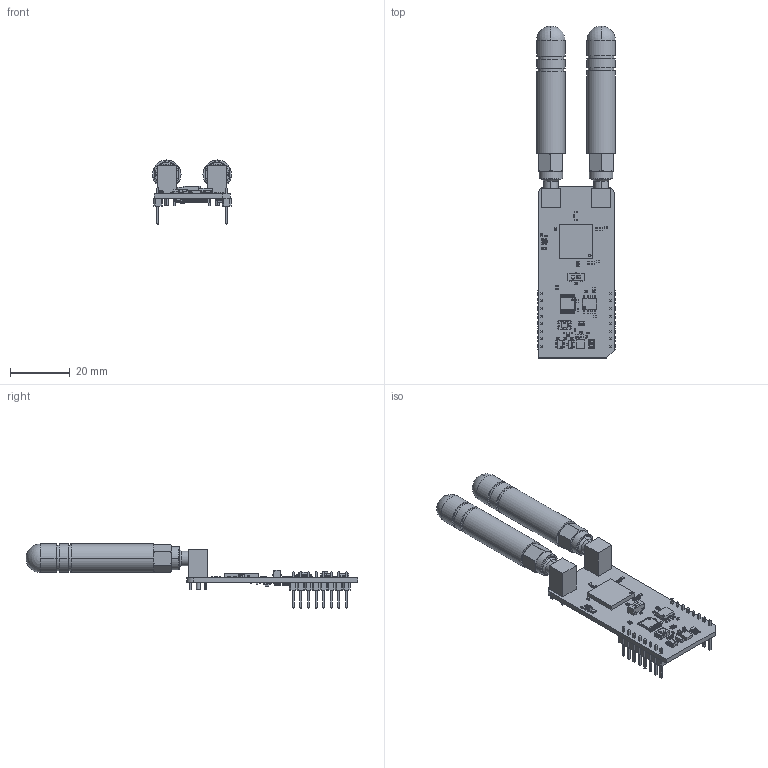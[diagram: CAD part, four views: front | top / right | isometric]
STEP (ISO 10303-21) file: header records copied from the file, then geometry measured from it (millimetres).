
FILE_DESCRIPTION(('Open CASCADE Model'),'2;1');
FILE_NAME('Open CASCADE Shape Model','2025-10-16T15:11:06',('Author'),( 'Open CASCADE'),'Open CASCADE STEP processor 6.8','Open CASCADE 6.8' ,'Unknown');
FILE_SCHEMA(('AUTOMOTIVE_DESIGN { 1 0 10303 214 1 1 1 1 }'));
Length unit declared in the file: millimetre
Products named in the file (117): PCB; Board; SW1; Cas-120a1; User_Library-cas-120a1_cas-120_body; User_Library-cas-120a1_cas-120_actuator; User_Library-cas-120a1_lead; R23; User_Library-R_0402; R22; R21; R24; C6; User_Library-SMD_CAPACITOR0402; Q5; SOT23-3; R20; U6; User_Library-SOT23-5-2; U5; User_Library-SOIC-8-1; U4; User_Library-TSSOP-16; U3; 1412612296; Extruded; 1412579184; Cylinder; T1; User_Library-Switch-CK-KMR2; User_Library-Switch-CK-KMR2_Button; User_Library-Switch-CK-KMR2_Boitier; User_Library-Switch-CK-KMR2_Tole; User_Library-Switch-CK-KMR2_Pads; R19; R18; R17; R16; R15; R14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
Assembly tree (174 placements, depth 7):
  PCB
    Board
    SW1
      Cas-120a1
        User_Library-cas-120a1_cas-120_body
        User_Library-cas-120a1_cas-120_actuator
        User_Library-cas-120a1_lead  x3
    R23
      User_Library-R_0402
    R22
      User_Library-R_0402
    R21
      User_Library-R_0402
    R24
      User_Library-R_0402
    C6
      User_Library-SMD_CAPACITOR0402
    Q5
      SOT23-3
    R20
      User_Library-R_0402
    U6
      User_Library-SOT23-5-2
    U5
      User_Library-SOIC-8-1
    U4
      User_Library-TSSOP-16
    U3
      1412612296
        Extruded
      1412579184
        Cylinder
    T1
      User_Library-Switch-CK-KMR2
        User_Library-Switch-CK-KMR2_Button
        User_Library-Switch-CK-KMR2_Boitier
        User_Library-Switch-CK-KMR2_Tole
        User_Library-Switch-CK-KMR2_Pads
    R19
      User_Library-R_0402
    R18
      User_Library-R_0402
    R17
      User_Library-R_0402
    R16
      User_Library-R_0402
    R15
      User_Library-R_0402
    R14
      User_Library-R_0402
    R13
      User_Library-R_0402
    R12
      User_Library-R_0402
    R11
      User_Library-R_0402
    R10
      User_Library-R_0402
    R9
      User_Library-R_0402
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Bounding box: 26.29 x 110.72 x 21.36 mm (x, y, z)
Volume: 10902 mm3; surface area: 11104.9 mm2
Topology: 182 solids, 182 shells, 7602 faces, 19238 edges, 12109 vertices
Faces by surface type: plane 4285, bspline 2040, cylinder 1003, sphere 236, torus 20, cone 18
Full cylindrical faces by diameter (mm): 0.8 x1, 1.307 x12
Entity records: 93962 total; most frequent: CARTESIAN_POINT 24772, ORIENTED_EDGE 12402, DIRECTION 10271, EDGE_CURVE 6201, LINE 4431, VECTOR 4431, VERTEX_POINT 3981, AXIS2_PLACEMENT_3D 2920
